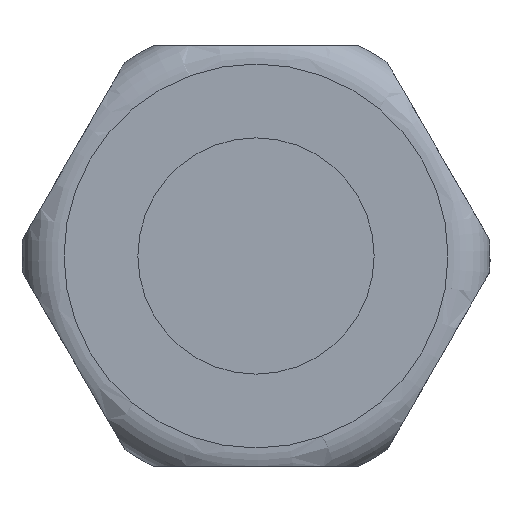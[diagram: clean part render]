
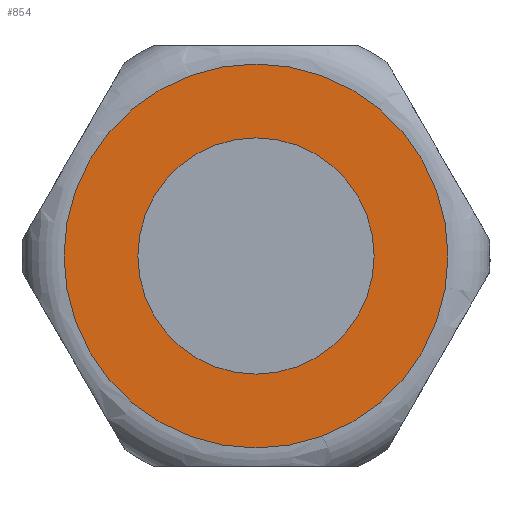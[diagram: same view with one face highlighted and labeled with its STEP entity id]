
A CAD part, left-side view. The second image highlights one B-rep face of the part: STEP entity #854.
In plain terms, the highlighted planar face has unit normal (-1, 0, 0).
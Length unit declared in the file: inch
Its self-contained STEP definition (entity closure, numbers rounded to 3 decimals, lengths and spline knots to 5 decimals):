
#40=FACE_BOUND('',#142,.T.);
#58=PLANE('',#970);
#93=FACE_OUTER_BOUND('',#141,.T.);
#141=EDGE_LOOP('',(#668,#669));
#142=EDGE_LOOP('',(#670,#671));
#245=CIRCLE('',#926,0.31496);
#246=CIRCLE('',#927,0.31496);
#272=CIRCLE('',#971,0.51181);
#273=CIRCLE('',#972,0.51181);
#322=VERTEX_POINT('',#1357);
#323=VERTEX_POINT('',#1358);
#362=VERTEX_POINT('',#1618);
#363=VERTEX_POINT('',#1619);
#417=EDGE_CURVE('',#322,#323,#245,.T.);
#418=EDGE_CURVE('',#323,#322,#246,.T.);
#474=EDGE_CURVE('',#362,#363,#272,.T.);
#475=EDGE_CURVE('',#363,#362,#273,.T.);
#668=ORIENTED_EDGE('',*,*,#474,.F.);
#669=ORIENTED_EDGE('',*,*,#475,.F.);
#670=ORIENTED_EDGE('',*,*,#417,.T.);
#671=ORIENTED_EDGE('',*,*,#418,.T.);
#854=ADVANCED_FACE('',(#93,#40),#58,.T.);
#926=AXIS2_PLACEMENT_3D('',#1359,#1091,#1092);
#927=AXIS2_PLACEMENT_3D('',#1360,#1093,#1094);
#970=AXIS2_PLACEMENT_3D('',#1617,#1195,#1196);
#971=AXIS2_PLACEMENT_3D('',#1620,#1197,#1198);
#972=AXIS2_PLACEMENT_3D('',#1621,#1199,#1200);
#1091=DIRECTION('center_axis',(1.,0.,0.));
#1092=DIRECTION('ref_axis',(0.,0.866,0.5));
#1093=DIRECTION('center_axis',(1.,0.,0.));
#1094=DIRECTION('ref_axis',(0.,0.866,0.5));
#1195=DIRECTION('center_axis',(-1.,0.,0.));
#1196=DIRECTION('ref_axis',(0.,0.866,0.5));
#1197=DIRECTION('center_axis',(1.,0.,0.));
#1198=DIRECTION('ref_axis',(0.,-0.866,-0.5));
#1199=DIRECTION('center_axis',(1.,0.,0.));
#1200=DIRECTION('ref_axis',(0.,-0.866,-0.5));
#1357=CARTESIAN_POINT('',(-2.39188,0.37407,-0.18686));
#1358=CARTESIAN_POINT('',(-2.39188,-0.17146,-0.50182));
#1359=CARTESIAN_POINT('Origin',(-2.39188,0.1013,-0.34434));
#1360=CARTESIAN_POINT('Origin',(-2.39188,0.1013,-0.34434));
#1617=CARTESIAN_POINT('Origin',(-2.39188,-0.34194,-0.60025));
#1618=CARTESIAN_POINT('',(-2.39188,-0.34194,-0.60025));
#1619=CARTESIAN_POINT('',(-2.39188,0.54454,-0.08844));
#1620=CARTESIAN_POINT('Origin',(-2.39188,0.1013,-0.34434));
#1621=CARTESIAN_POINT('Origin',(-2.39188,0.1013,-0.34434));
